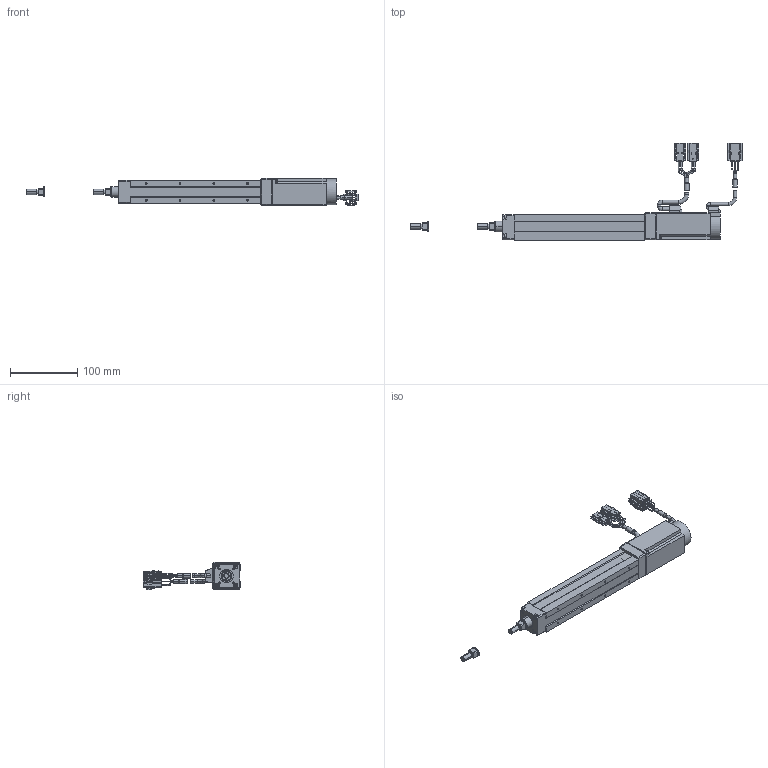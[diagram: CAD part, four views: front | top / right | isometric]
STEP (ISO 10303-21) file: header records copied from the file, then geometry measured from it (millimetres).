
FILE_DESCRIPTION((''),'2;1');
FILE_NAME('BET3D-ST-C_B-10_IGS_PRT','2017-06-18T',(' '),(''),'PRO/ENGINEER BY PARAMETRIC TECHNOLOGY CORPORATION, 2015030','PRO/ENGINEER BY PARAMETRIC TECHNOLOGY CORPORATION, 2015030','');
FILE_SCHEMA(('CONFIG_CONTROL_DESIGN'));
Length unit declared in the file: millimetre
Products named in the file (1): BET3D-ST-C_B-10_IGS_PRT
Bounding box: 492.5 x 144.2 x 40.28 mm (x, y, z)
Volume: 345011.4 mm3; surface area: 105259.7 mm2
Topology: 7 solids, 33 shells, 967 faces, 2491 edges, 1585 vertices
Faces by surface type: plane 583, cylinder 258, torus 68, cone 54, sphere 4
Entity records: 29275 total; most frequent: CARTESIAN_POINT 5294, DIRECTION 5023, ORIENTED_EDGE 4870, EDGE_CURVE 2451, VECTOR 1737, LINE 1737, AXIS2_PLACEMENT_3D 1643, VERTEX_POINT 1585
